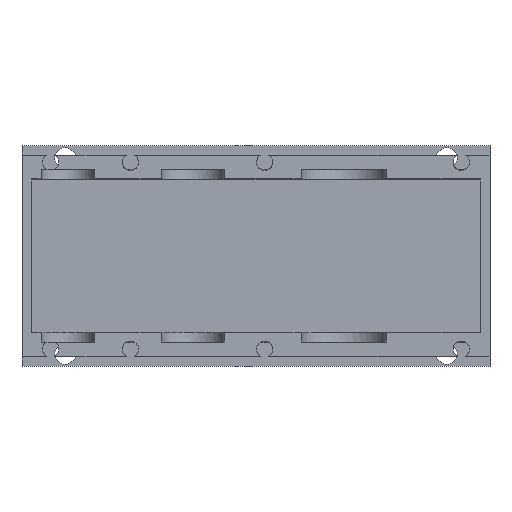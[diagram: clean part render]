
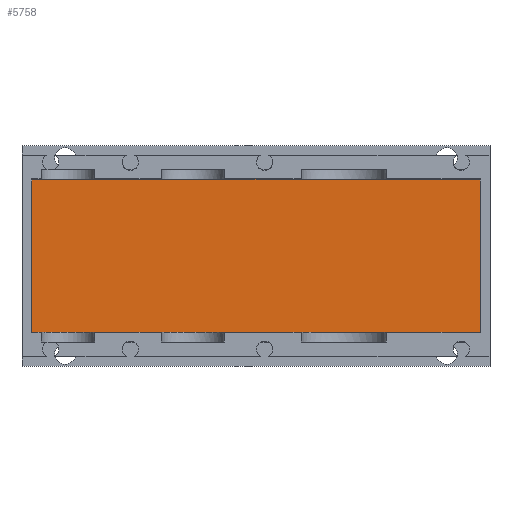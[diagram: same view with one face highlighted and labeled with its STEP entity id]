
A CAD part, top view. The second image highlights one B-rep face of the part: STEP entity #5758.
In plain terms, the highlighted planar face has unit normal (0, 0, 1).
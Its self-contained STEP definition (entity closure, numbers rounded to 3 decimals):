
#2297 = PLANE('',#2298);
#2298 = AXIS2_PLACEMENT_3D('',#2299,#2300,#2301);
#2299 = CARTESIAN_POINT('',(-38.,-80.,0.));
#2300 = DIRECTION('',(-0.,1.,0.));
#2301 = DIRECTION('',(0.,0.,1.));
#2325 = PLANE('',#2326);
#2326 = AXIS2_PLACEMENT_3D('',#2327,#2328,#2329);
#2327 = CARTESIAN_POINT('',(-38.,-80.,0.));
#2328 = DIRECTION('',(1.,0.,-0.));
#2329 = DIRECTION('',(0.,0.,1.));
#2353 = PLANE('',#2354);
#2354 = AXIS2_PLACEMENT_3D('',#2355,#2356,#2357);
#2355 = CARTESIAN_POINT('',(-38.,80.,0.));
#2356 = DIRECTION('',(-0.,1.,0.));
#2357 = DIRECTION('',(0.,0.,1.));
#4836 = VERTEX_POINT('',#4837);
#4837 = CARTESIAN_POINT('',(430.,80.,0.));
#4853 = PLANE('',#4854);
#4854 = AXIS2_PLACEMENT_3D('',#4855,#4856,#4857);
#4855 = CARTESIAN_POINT('',(430.,-80.,0.));
#4856 = DIRECTION('',(1.,0.,-0.));
#4857 = DIRECTION('',(0.,0.,1.));
#4865 = EDGE_CURVE('',#4866,#4836,#4868,.T.);
#4866 = VERTEX_POINT('',#4867);
#4867 = CARTESIAN_POINT('',(-38.,80.,0.));
#4868 = SURFACE_CURVE('',#4869,(#4873,#4880),.PCURVE_S1.);
#4869 = LINE('',#4870,#4871);
#4870 = CARTESIAN_POINT('',(-38.,80.,0.));
#4871 = VECTOR('',#4872,1.);
#4872 = DIRECTION('',(1.,0.,-0.));
#4873 = PCURVE('',#2353,#4874);
#4874 = DEFINITIONAL_REPRESENTATION('',(#4875),#4879);
#4875 = LINE('',#4876,#4877);
#4876 = CARTESIAN_POINT('',(0.,0.));
#4877 = VECTOR('',#4878,1.);
#4878 = DIRECTION('',(0.,1.));
#4879 = ( GEOMETRIC_REPRESENTATION_CONTEXT(2) 
PARAMETRIC_REPRESENTATION_CONTEXT() REPRESENTATION_CONTEXT('2D SPACE',''
  ) );
#4880 = PCURVE('',#4881,#4886);
#4881 = PLANE('',#4882);
#4882 = AXIS2_PLACEMENT_3D('',#4883,#4884,#4885);
#4883 = CARTESIAN_POINT('',(-38.,-80.,0.));
#4884 = DIRECTION('',(0.,0.,1.));
#4885 = DIRECTION('',(1.,0.,-0.));
#4886 = DEFINITIONAL_REPRESENTATION('',(#4887),#4891);
#4887 = LINE('',#4888,#4889);
#4888 = CARTESIAN_POINT('',(0.,160.));
#4889 = VECTOR('',#4890,1.);
#4890 = DIRECTION('',(1.,0.));
#4891 = ( GEOMETRIC_REPRESENTATION_CONTEXT(2) 
PARAMETRIC_REPRESENTATION_CONTEXT() REPRESENTATION_CONTEXT('2D SPACE',''
  ) );
#4988 = VERTEX_POINT('',#4989);
#4989 = CARTESIAN_POINT('',(-38.,-80.,0.));
#5010 = EDGE_CURVE('',#4988,#4866,#5011,.T.);
#5011 = SURFACE_CURVE('',#5012,(#5016,#5023),.PCURVE_S1.);
#5012 = LINE('',#5013,#5014);
#5013 = CARTESIAN_POINT('',(-38.,-80.,0.));
#5014 = VECTOR('',#5015,1.);
#5015 = DIRECTION('',(-0.,1.,0.));
#5016 = PCURVE('',#2325,#5017);
#5017 = DEFINITIONAL_REPRESENTATION('',(#5018),#5022);
#5018 = LINE('',#5019,#5020);
#5019 = CARTESIAN_POINT('',(0.,0.));
#5020 = VECTOR('',#5021,1.);
#5021 = DIRECTION('',(0.,-1.));
#5022 = ( GEOMETRIC_REPRESENTATION_CONTEXT(2) 
PARAMETRIC_REPRESENTATION_CONTEXT() REPRESENTATION_CONTEXT('2D SPACE',''
  ) );
#5023 = PCURVE('',#4881,#5024);
#5024 = DEFINITIONAL_REPRESENTATION('',(#5025),#5029);
#5025 = LINE('',#5026,#5027);
#5026 = CARTESIAN_POINT('',(0.,0.));
#5027 = VECTOR('',#5028,1.);
#5028 = DIRECTION('',(0.,1.));
#5029 = ( GEOMETRIC_REPRESENTATION_CONTEXT(2) 
PARAMETRIC_REPRESENTATION_CONTEXT() REPRESENTATION_CONTEXT('2D SPACE',''
  ) );
#5040 = VERTEX_POINT('',#5041);
#5041 = CARTESIAN_POINT('',(430.,-80.,0.));
#5064 = EDGE_CURVE('',#4988,#5040,#5065,.T.);
#5065 = SURFACE_CURVE('',#5066,(#5070,#5077),.PCURVE_S1.);
#5066 = LINE('',#5067,#5068);
#5067 = CARTESIAN_POINT('',(-38.,-80.,0.));
#5068 = VECTOR('',#5069,1.);
#5069 = DIRECTION('',(1.,0.,-0.));
#5070 = PCURVE('',#2297,#5071);
#5071 = DEFINITIONAL_REPRESENTATION('',(#5072),#5076);
#5072 = LINE('',#5073,#5074);
#5073 = CARTESIAN_POINT('',(0.,0.));
#5074 = VECTOR('',#5075,1.);
#5075 = DIRECTION('',(0.,1.));
#5076 = ( GEOMETRIC_REPRESENTATION_CONTEXT(2) 
PARAMETRIC_REPRESENTATION_CONTEXT() REPRESENTATION_CONTEXT('2D SPACE',''
  ) );
#5077 = PCURVE('',#4881,#5078);
#5078 = DEFINITIONAL_REPRESENTATION('',(#5079),#5083);
#5079 = LINE('',#5080,#5081);
#5080 = CARTESIAN_POINT('',(0.,0.));
#5081 = VECTOR('',#5082,1.);
#5082 = DIRECTION('',(1.,0.));
#5083 = ( GEOMETRIC_REPRESENTATION_CONTEXT(2) 
PARAMETRIC_REPRESENTATION_CONTEXT() REPRESENTATION_CONTEXT('2D SPACE',''
  ) );
#5736 = EDGE_CURVE('',#5040,#4836,#5737,.T.);
#5737 = SURFACE_CURVE('',#5738,(#5742,#5749),.PCURVE_S1.);
#5738 = LINE('',#5739,#5740);
#5739 = CARTESIAN_POINT('',(430.,-80.,0.));
#5740 = VECTOR('',#5741,1.);
#5741 = DIRECTION('',(-0.,1.,0.));
#5742 = PCURVE('',#4853,#5743);
#5743 = DEFINITIONAL_REPRESENTATION('',(#5744),#5748);
#5744 = LINE('',#5745,#5746);
#5745 = CARTESIAN_POINT('',(0.,0.));
#5746 = VECTOR('',#5747,1.);
#5747 = DIRECTION('',(0.,-1.));
#5748 = ( GEOMETRIC_REPRESENTATION_CONTEXT(2) 
PARAMETRIC_REPRESENTATION_CONTEXT() REPRESENTATION_CONTEXT('2D SPACE',''
  ) );
#5749 = PCURVE('',#4881,#5750);
#5750 = DEFINITIONAL_REPRESENTATION('',(#5751),#5755);
#5751 = LINE('',#5752,#5753);
#5752 = CARTESIAN_POINT('',(468.,0.));
#5753 = VECTOR('',#5754,1.);
#5754 = DIRECTION('',(0.,1.));
#5755 = ( GEOMETRIC_REPRESENTATION_CONTEXT(2) 
PARAMETRIC_REPRESENTATION_CONTEXT() REPRESENTATION_CONTEXT('2D SPACE',''
  ) );
#5758 = ADVANCED_FACE('',(#5759),#4881,.T.);
#5759 = FACE_BOUND('',#5760,.T.);
#5760 = EDGE_LOOP('',(#5761,#5762,#5763,#5764));
#5761 = ORIENTED_EDGE('',*,*,#5010,.F.);
#5762 = ORIENTED_EDGE('',*,*,#5064,.T.);
#5763 = ORIENTED_EDGE('',*,*,#5736,.T.);
#5764 = ORIENTED_EDGE('',*,*,#4865,.F.);
